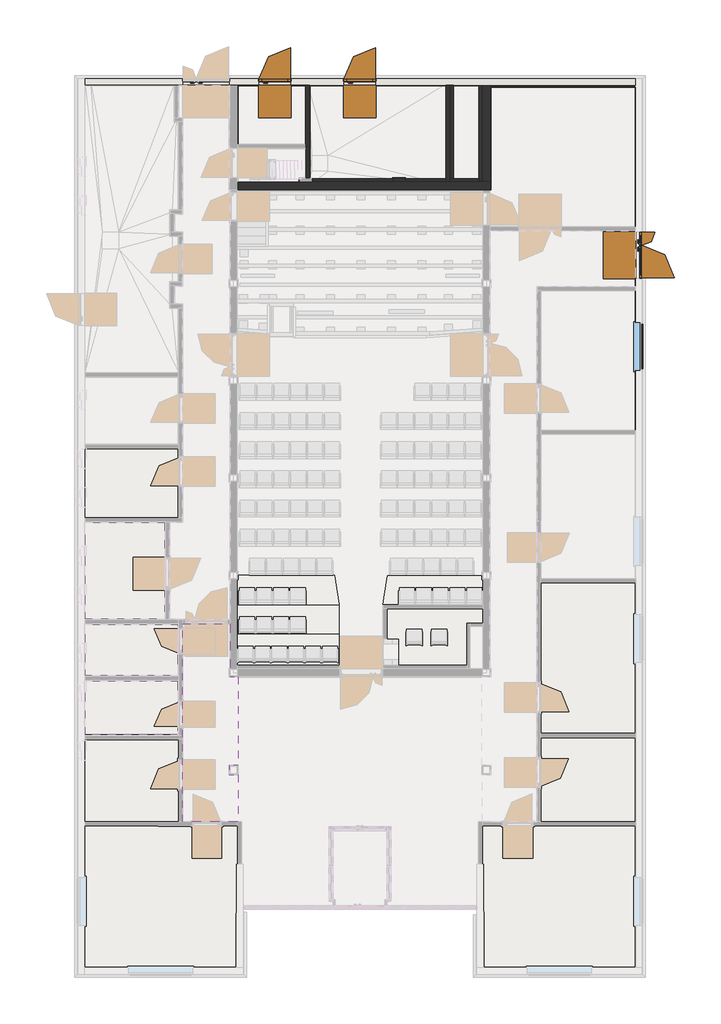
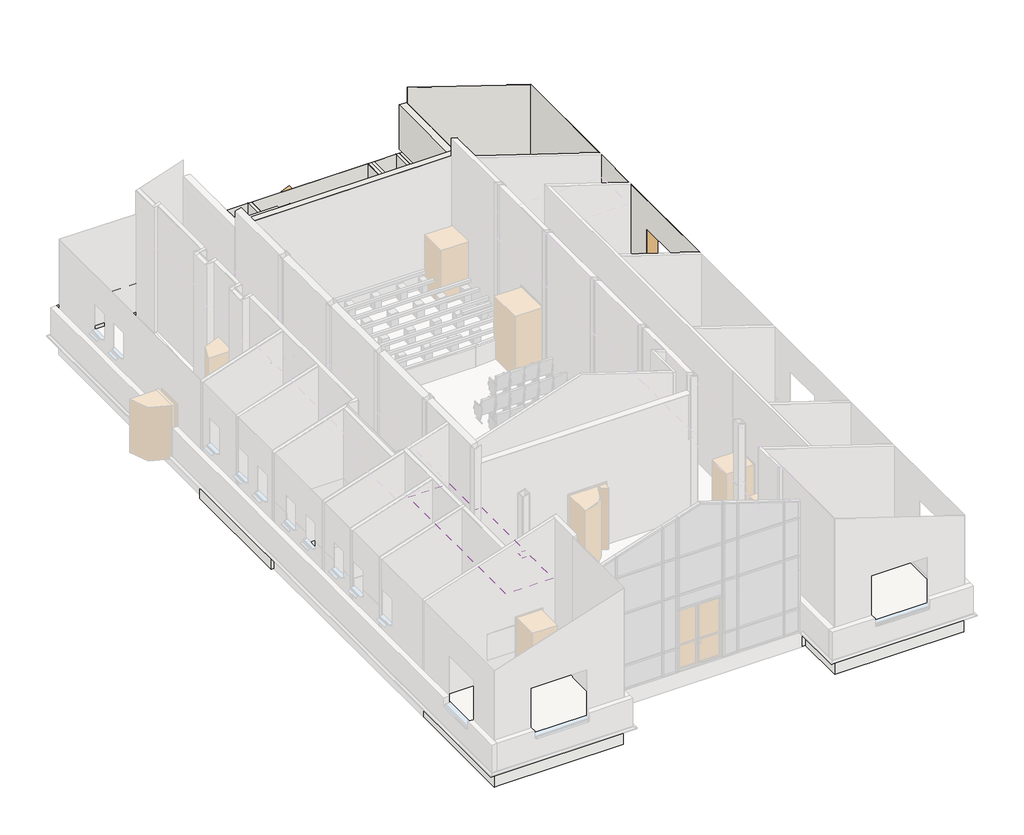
# One storey, part 9 of 12: 33 walls, 12 slabs, 3 doors, 2 windows, 1 covering.
"""IFC4 building model written with IfcOpenShell, lengths in millimetres."""

from ifc_helpers import new_model, si_unit, frame, origin, origin_with_axes, place, context, project, spatial, polyline, outline, extrude, faceted_brep, transform, mapped, element, save
from components import door_54bb3564, door_b13809c9, window_3b6728a6, window_c86a886d

model = new_model("IFC4")

# Units and contexts
model_context = context("Model", 3, world=origin())
ifc_project = project(units=[si_unit("LENGTHUNIT", "METRE", prefix="MILLI")], contexts=[model_context])

# Site, building, storey
site = spatial("IfcSite", under=ifc_project)
building = spatial("IfcBuilding", under=site)
storey = spatial("IfcBuildingStorey", under=building, Name="Этаж 01", Elevation=0.0)

# Covering
placement = place(None, origin())
element("IfcCovering", 1, ObjectType="ADSK_Подвесной_Плиты потолочные Армстронг 600х600 мм", at=placement, inside=storey, context=model_context, shape_type="Brep", body=[
    faceted_brep([(4631.5630762, 6141.0, 3032.0), (4631.5630762, 8874.9999997, 3032.0), (4395.0630762, 8874.9999997, 3032.0), (4395.0630762, 10505.0, 3032.0), (2925.2560094, 10505.0, 3032.0), (2925.2560094, 4399.9957095, 3032.0), (4631.5630762, 4399.9957095, 3032.0), (4631.5630762, 5859.0, 3032.0), (4367.5630762, 5859.0, 3032.0), (4367.5630762, 5860.0, 3032.0), (4367.5630762, 6140.0, 3032.0), (4367.5630762, 6141.0, 3032.0), (4631.5630762, 6141.0, 3000.0), (4367.5630762, 6141.0, 3000.0), (4367.5630762, 6140.0, 3000.0), (4367.5630762, 5860.0, 3000.0), (4367.5630762, 5859.0, 3000.0), (4631.5630762, 5859.0, 3000.0), (4631.5630762, 4399.9957095, 3000.0), (2925.2560094, 4399.9957095, 3000.0), (2925.2560094, 10505.0, 3000.0), (4395.0630762, 10505.0, 3000.0), (4395.0630762, 8874.9999997, 3000.0), (4631.5630762, 8874.9999997, 3000.0)], [[[0, 1, 2, 3, 4, 5, 6, 7, 8, 9, 10, 11]], [[12, 13, 14, 15, 16, 17, 18, 19, 20, 21, 22, 23]], [[1, 0, 12, 23]], [[2, 1, 23, 22]], [[3, 2, 22, 21]], [[4, 3, 21, 20]], [[5, 4, 20, 19]], [[6, 5, 19, 18]], [[7, 6, 18, 17]], [[8, 7, 17, 16]], [[11, 10, 9, 8, 16, 15, 14, 13]], [[0, 11, 13, 12]]]),
])

# Doors
door_shape = door_54bb3564(model_context)
element("IfcDoor", 2, ObjectType="Дверь_Стальная_Наружная_Двупольная_ГОСТ_31173-2016 : 1410 х 2070(h)_Л_Обычная_с Порогом", at=placement, inside=storey, context=model_context, shape_type="MappedRepresentation", body=[
    mapped(door_shape, transform((17000.0, 21870.0, -12.5), x_axis=(0.0, -1.0, 0.0), y_axis=(1.0, 0.0, 0.0), z_axis=(0.0, 0.0, 1.0))),
])
door_2_shape = door_b13809c9(model_context)
element("IfcDoor", 3, ObjectType="Дверь_Стальная_Наружная_Однопольная_ГОСТ_31173-2016 : 1010 х 2070(h)_Л_Обычная_с Порогом", at=placement, inside=storey, context=model_context, shape_type="MappedRepresentation", body=[
    mapped(door_2_shape, transform((5774.9972865, 27200.0, 0.0), x_axis=(1.0, 0.0, 0.0), y_axis=(0.0, 1.0, 0.0), z_axis=(0.0, 0.0, 1.0))),
])
element("IfcDoor", 4, ObjectType="Дверь_Стальная_Наружная_Однопольная_ГОСТ_31173-2016 : 1010 х 2070(h)_Л_Обычная_с Порогом", at=placement, inside=storey, context=model_context, shape_type="MappedRepresentation", body=[
    mapped(door_2_shape, transform((8394.9997514, 27200.0, 0.0), x_axis=(1.0, 0.0, 0.0), y_axis=(0.0, 1.0, 0.0), z_axis=(0.0, 0.0, 1.0))),
])

# Slabs
element("IfcSlab", 5, ObjectType="Тип 4", at=placement, inside=storey, context=model_context, shape_type="SweptSolid", body=[
    extrude(outline(polyline([(2405.0415712, 13650.0024506), (2405.0415712, 10630.0), (-85.0, 10630.0), (-85.0, 13650.0024506), (2405.0415712, 13650.0024506)])), frame((0.0, 0.0, -15.0), z_axis=(0.0, 0.0, 1.0), x_axis=(1.0, 0.0, 0.0)), (0.0, 0.0, 1.0), 15.0),
    extrude(outline(polyline([(2805.3948034, 10510.0), (2805.3948034, 8890.0), (-85.0, 8890.0), (-85.0, 10510.0), (2805.3948034, 10510.0)])), frame((0.0, 0.0, -15.0), z_axis=(0.0, 0.0, 1.0), x_axis=(1.0, 0.0, 0.0)), (0.0, 0.0, 1.0), 15.0),
    extrude(outline(polyline([(2805.3948034, 8770.0), (2805.3948034, 7059.9969968), (-85.0, 7059.9969968), (-85.0, 8770.0), (2805.3948034, 8770.0)])), frame((0.0, 0.0, -15.0), z_axis=(0.0, 0.0, 1.0), x_axis=(1.0, 0.0, 0.0)), (0.0, 0.0, 1.0), 15.0),
    extrude(outline(polyline([(2800.2560094, 6939.9969968), (2800.2560094, 4399.9957095), (-85.0, 4399.9957095), (-85.0, 6939.9969968), (2800.2560094, 6939.9969968)])), frame((0.0, 0.0, -15.0), z_axis=(0.0, 0.0, 1.0), x_axis=(1.0, 0.0, 0.0)), (0.0, 0.0, 1.0), 15.0),
])
element("IfcSlab", 6, ObjectType="Тип 1", at=placement, inside=storey, context=model_context, shape_type="Brep", body=[
    faceted_brep([(12780.5, 4290.3457095, -3.0), (12780.5, 4415.3457095, -3.0), (13740.5, 4415.3457095, -3.0), (13740.5, 4290.3457095, -3.0), (16885.0, 4290.3457095, -3.0), (16885.0, -85.0, -3.0), (12215.0, -85.0, -3.0), (12200.0, -85.0, -3.0), (12200.0, 1635.3517467, -3.0), (12200.0, 3100.0, -3.0), (12175.0, 3100.0, -3.0), (12175.0, 4290.3457095, -3.0), (12780.5, 4415.3457095, 0.0), (12780.5, 4290.3457095, 0.0), (12175.0, 4290.3457095, 0.0), (12175.0, 3100.0, 0.0), (12200.0, 3100.0, 0.0), (12200.0, 1635.3517467, 0.0), (12200.0, -85.0, 0.0), (12215.0, -85.0, 0.0), (16885.0, -85.0, 0.0), (16885.0, 4290.3457095, 0.0), (13740.5, 4290.3457095, 0.0), (13740.5, 4415.3457095, 0.0)], [[[0, 1, 2, 3, 4, 5, 6, 7, 8, 9, 10, 11]], [[12, 13, 14, 15, 16, 17, 18, 19, 20, 21, 22, 23]], [[1, 0, 13, 12]], [[2, 1, 12, 23]], [[3, 2, 23, 22]], [[3, 22, 21, 4]], [[18, 7, 6, 5, 20, 19]], [[0, 11, 14, 13]], [[9, 8, 7, 18, 17, 16]], [[10, 9, 16, 15]], [[11, 10, 15, 14]], [[5, 4, 21, 20]]]),
])
element("IfcSlab", 7, ObjectType="Основа", at=placement, inside=storey, context=model_context, shape_type="Brep", body=[
    faceted_brep([(-85.0, 4337.4957095, -610.0), (45.0, 4337.4957095, -610.0), (4675.0, 4337.4957095, -610.0), (4687.5, 4337.4957095, -610.0), (4687.5, 1755.3517467, -610.0), (4687.5, 1635.3517467, -610.0), (4687.5, 1585.3517467, -610.0), (4585.0, 1585.3517467, -610.0), (4585.0, 45.0, -610.0), (4585.0, -85.0, -610.0), (45.0, -85.0, -610.0), (-85.0, -85.0, -610.0), (-85.0, 4337.4957095, -3.0), (-85.0, -85.0, -3.0), (4585.0, -85.0, -3.0), (4585.0, 1585.3517467, -3.0), (4687.5, 1585.3517467, -3.0), (4687.5, 1635.3517467, -3.0), (4687.5, 1885.3517467, -3.0), (4687.5, 4337.4957095, -3.0), (-85.0, 4337.4957095, -20.0), (4687.5, 4337.4957095, -20.0), (4687.5, 1585.3517467, -20.0), (4585.0, 1585.3517467, -20.0), (4585.0, -85.0, -20.0), (-85.0, -85.0, -100.0)], [[[0, 1, 2, 3, 4, 5, 6, 7, 8, 9, 10, 11]], [[12, 13, 14, 15, 16, 17, 18, 19]], [[3, 2, 1, 0, 20, 12, 19, 21]], [[6, 5, 4, 3, 21, 19, 18, 17, 16, 22]], [[7, 6, 22, 16, 15, 23]], [[9, 8, 7, 23, 15, 14, 24]], [[11, 10, 9, 24, 14, 13, 25]], [[0, 11, 25, 13, 12, 20]]]),
    faceted_brep([(16885.0, 7062.5, -610.0), (16755.0, 7062.5, -610.0), (13917.5, 7062.5, -610.0), (13917.5, 20838.0, -610.0), (16755.0, 20838.0, -610.0), (16885.0, 20838.0, -610.0), (16885.0, 7062.5, -3.0), (16885.0, 7125.0, -3.0), (16885.0, 11775.0, -3.0), (16885.0, 11900.0, -3.0), (16885.0, 16349.9313142, -3.0), (16885.0, 16474.9313142, -3.0), (16885.0, 20775.5, -3.0), (16885.0, 20838.0, -3.0), (13917.5, 20838.0, -3.0), (13917.5, 20775.5, -3.0), (13917.5, 7062.5, -3.0), (13980.0, 7062.5, -3.0), (16885.0, 7062.5, -20.0), (13917.5, 7062.5, -20.0), (13917.5, 20838.0, -20.0), (16885.0, 20838.0, -20.0)], [[[0, 1, 2, 3, 4, 5]], [[6, 7, 8, 9, 10, 11, 12, 13, 14, 15, 16, 17]], [[2, 1, 0, 18, 6, 17, 16, 19]], [[3, 2, 19, 16, 15, 14, 20]], [[5, 4, 3, 20, 14, 13, 21]], [[0, 5, 21, 13, 12, 11, 10, 9, 8, 7, 6, 18]]]),
    faceted_brep([(12215.0, 1755.3517467, -610.0), (12112.5, 1755.3517467, -610.0), (12112.5, 1885.3517467, -610.0), (12112.5, 4337.4957095, -610.0), (16755.0, 4337.4957095, -610.0), (16885.0, 4337.4957095, -610.0), (16885.0, -85.0, -610.0), (16755.0, -85.0, -610.0), (12215.0, -85.0, -610.0), (12215.0, 45.0, -610.0), (12215.0, 1635.3517467, -610.0), (12215.0, 1755.3517467, -3.0), (12215.0, 1635.3517467, -3.0), (12215.0, -85.0, -3.0), (16885.0, -85.0, -3.0), (16885.0, 4274.9957095, -3.0), (16885.0, 4337.4957095, -3.0), (12175.0, 4337.4957095, -3.0), (12112.5, 4337.4957095, -3.0), (12112.5, 1885.3517467, -3.0), (12112.5, 1755.3517467, -3.0), (12112.5, 4337.4957095, -20.0), (16885.0, 4337.4957095, -20.0), (16885.0, -85.0, -20.0), (12215.0, -85.0, -20.0), (12215.0, -85.0, -25.0), (12112.5, 1755.3517467, -20.0)], [[[0, 1, 2, 3, 4, 5, 6, 7, 8, 9, 10]], [[11, 12, 13, 14, 15, 16, 17, 18, 19, 20]], [[5, 4, 3, 21, 18, 17, 16, 22]], [[6, 5, 22, 16, 15, 14, 23]], [[8, 7, 6, 23, 14, 13, 24, 25]], [[0, 10, 9, 8, 25, 24, 13, 12, 11]], [[3, 2, 1, 26, 20, 19, 18, 21]], [[1, 0, 11, 20, 26]]]),
    faceted_brep([(2865.2572865, 13710.0024506, -610.0), (45.0, 13710.0024506, -610.0), (-85.0, 13710.0024506, -610.0), (-175.0, 13710.0024506, -610.0), (-175.0, 18180.0, -610.0), (45.0, 18180.0, -610.0), (2865.2572865, 18180.0, -610.0), (2865.2572865, 13710.0024506, -3.0), (2865.2572865, 13770.0024506, -3.0), (2865.2572865, 18180.0, -3.0), (2805.2572865, 18180.0, -3.0), (-85.0, 18180.0, -3.0), (-175.0, 18180.0, -3.0), (-175.0, 13710.0024506, -3.0), (-85.0, 13710.0024506, -3.0), (2865.2572865, 13710.0024506, -20.0), (-175.0, 13710.0024506, -100.0), (-175.0, 18180.0, -100.0), (2865.2572865, 18180.0, -25.0)], [[[0, 1, 2, 3, 4, 5, 6]], [[7, 8, 9, 10, 11, 12, 13, 14]], [[3, 2, 1, 0, 15, 7, 14, 13, 16]], [[4, 3, 16, 13, 12, 17]], [[6, 5, 4, 17, 12, 11, 10, 9, 18]], [[0, 6, 18, 9, 8, 7, 15]]]),
])
element("IfcSlab", 8, ObjectType="Доска пола ДП-35", at=placement, inside=storey, context=model_context, shape_type="SweptSolid", body=[
    extrude(outline(polyline([(12195.0, 11084.9999997), (12195.0, 10524.9970271), (11695.0, 10524.9970271), (11695.0, 9224.9970982), (9605.7160481, 9224.9970982), (9605.7160481, 10044.981998), (9105.0, 10044.981998), (9105.0, 11084.9999997), (12195.0, 11084.9999997)])), frame((0.0, 0.0, 505.0), z_axis=(0.0, 0.0, 1.0), x_axis=(1.0, 0.0, 0.0)), (0.0, 0.0, 1.0), 35.0),
])
element("IfcSlab", 9, ObjectType="Доска пола ДП-35", at=placement, inside=storey, context=model_context, shape_type="Brep", body=[
    faceted_brep([(12195.0, 11084.9999997, 145.0), (9140.0, 11084.9999997, 145.0), (9105.0, 11084.9999997, 145.0), (9105.0, 11089.5641537, 145.0), (9140.0, 11302.4019902, 145.0), (9252.2494511, 11984.9999997, 145.0), (12195.0, 11984.9999997, 145.0), (12195.0, 11084.9999997, 180.0), (12195.0, 11984.9999997, 180.0), (9252.2494511, 11984.9999997, 180.0), (9140.0, 11302.4019902, 180.0), (9105.0, 11089.5641537, 180.0), (9105.0, 11084.9999997, 180.0)], [[[0, 1, 2, 3, 4, 5, 6]], [[7, 8, 9, 10, 11, 12]], [[2, 1, 0, 7, 12]], [[4, 3, 11, 10]], [[5, 4, 10, 9]], [[6, 5, 9, 8]], [[0, 6, 8, 7]], [[3, 2, 12, 11]]]),
])
element("IfcSlab", 10, ObjectType="Доска пола ДП-35", at=placement, inside=storey, context=model_context, shape_type="SweptSolid", body=[
    extrude(outline(polyline([(7755.0, 10184.9999997), (7755.0, 9224.9999997), (4605.0, 9224.9999997), (4605.0, 10184.9999997), (7755.0, 10184.9999997)])), frame((0.0, 0.0, 505.0), z_axis=(0.0, 0.0, 1.0), x_axis=(1.0, 0.0, 0.0)), (0.0, 0.0, 1.0), 35.0),
])
element("IfcSlab", 11, ObjectType="Доска пола ДП-35", at=placement, inside=storey, context=model_context, shape_type="Brep", body=[
    faceted_brep([(7755.0, 10184.9999997, 325.0), (4605.0, 10184.9999997, 325.0), (4605.0, 11084.9999997, 325.0), (7720.0, 11084.9999997, 325.0), (7755.0, 11084.9999997, 325.0), (7755.0, 10184.9999997, 360.0), (7755.0, 11084.9999997, 360.0), (4605.0, 11084.9999997, 360.0), (4605.0, 10184.9999997, 360.0)], [[[0, 1, 2, 3, 4]], [[5, 6, 7, 8]], [[1, 0, 5, 8]], [[2, 1, 8, 7]], [[4, 3, 2, 7, 6]], [[0, 4, 6, 5]]]),
])
element("IfcSlab", 12, ObjectType="Доска пола ДП-35", at=placement, inside=storey, context=model_context, shape_type="SweptSolid", body=[
    extrude(outline(polyline([(7755.0, 11084.9999997), (4605.0, 11084.9999997), (4605.0, 11867.5), (4625.0, 11867.5), (4625.0, 11999.9999997), (7607.4551117, 11999.9999997), (7755.0, 11102.7675766), (7755.0, 11084.9999997)])), frame((0.0, 0.0, 145.0), z_axis=(0.0, 0.0, 1.0), x_axis=(1.0, 0.0, 0.0)), (0.0, 0.0, 1.0), 35.0),
])
element("IfcSlab", 13, ObjectType="Тип 1", at=placement, inside=storey, context=model_context, shape_type="SweptSolid", body=[
    extrude(outline(polyline([(4125.258522, 4287.4957095), (4625.0, 4287.4957095), (4625.0, 3100.5), (4600.0, 3100.5), (4600.0, -100.0), (-100.0, -100.0), (-100.0, 4290.3457095), (3225.258522, 4290.3457095), (3225.258522, 4379.9982221), (4125.258522, 4379.9982221), (4125.258522, 4287.4957095)])), frame((0.0, 0.0, -3.0), z_axis=(0.0, 0.0, 1.0), x_axis=(1.0, 0.0, 0.0)), (0.0, 0.0, 1.0), 3.0),
])
element("IfcSlab", 14, ObjectType="Тип 1", at=placement, inside=storey, context=model_context, shape_type="SweptSolid", body=[
    extrude(outline(polyline([(-100.0, 15909.9976367), (2805.2572865, 15909.9976367), (2805.2572865, 15670.7835232), (2925.2572865, 15670.7835232), (2925.2572865, 14760.7835232), (2805.2572865, 14760.7835232), (2805.2572865, 13770.0024506), (-100.0, 13770.0024506), (-100.0, 15909.9976367)])), frame((0.0, 0.0, -3.0), z_axis=(0.0, 0.0, 1.0), x_axis=(1.0, 0.0, 0.0)), (0.0, 0.0, 1.0), 3.0),
])
element("IfcSlab", 15, ObjectType="Тип 1", at=placement, inside=storey, context=model_context, shape_type="SweptSolid", body=[
    extrude(outline(polyline([(16900.0630762, 11775.0), (16900.0630762, 7125.0), (13980.0, 7125.0), (13980.0, 7750.0), (13855.0, 7750.0), (13855.0, 8710.0), (13980.0, 8710.0), (13980.0, 11775.0), (16900.0630762, 11775.0)])), frame((0.0, 0.0, -3.0), z_axis=(0.0, 0.0, 1.0), x_axis=(1.0, 0.0, 0.0)), (0.0, 0.0, 1.0), 3.0),
])
element("IfcSlab", 16, ObjectType="Тип 3", at=placement, inside=storey, context=model_context, shape_type="SweptSolid", body=[
    extrude(outline(polyline([(16900.0630762, 7000.0), (16900.0630762, 4399.9957095), (13980.0, 4399.9957095), (13980.0, 7000.0), (16900.0630762, 7000.0)])), frame((0.0, 0.0, -20.0), z_axis=(0.0, 0.0, 1.0), x_axis=(1.0, 0.0, 0.0)), (0.0, 0.0, 1.0), 20.0),
])

# Walls
element("IfcWall", 17, ObjectType="ADSK_Внутренняя_Кирпич_250", at=placement, inside=storey, context=model_context, shape_type="Brep", body=[
    faceted_brep([(4625.0, 23875.0, 4695.0), (4625.0, 23875.0, -5.0), (4625.0, 23875.0, -612.0), (4625.0, 23875.0, -1050.0), (12425.0, 23875.0, -1050.0), (12425.0, 23875.0, -627.0), (12425.0, 23875.0, -20.0), (12425.0, 23875.0, 4695.0), (4625.0, 24125.0, -1050.0), (4625.0, 24125.0, -540.0), (4625.0, 24125.0, 0.0), (4625.0, 24125.0, 4695.0), (4635.0, 24125.0, 4695.0), (12175.0, 24125.0, 4695.0), (12425.0, 24125.0, 4695.0), (12425.0, 24125.0, -1050.0), (12175.0, 24125.0, -1050.0)], [[[0, 1, 2, 3, 4, 5, 6, 7]], [[8, 9, 10, 11, 12, 13, 14, 15, 16]], [[4, 3, 8, 16, 15]], [[0, 7, 14, 13, 12, 11]], [[7, 6, 5, 4, 15, 14]], [[0, 11, 10, 9, 8, 3, 2, 1]]]),
])
element("IfcWall", 18, ObjectType="ADSK_Внутренняя_Кирпич_250", at=placement, inside=storey, context=model_context, shape_type="Brep", body=[
    faceted_brep([(12425.0, 24125.0, -1050.0), (12425.0, 26955.0, -1050.0), (12425.0, 26955.0, -627.0), (12425.0, 26955.0, -25.0), (12425.0, 27085.0, -25.0), (12425.0, 27085.0, -20.0), (12425.0, 27085.0, 100.0), (12425.0, 27100.0, 100.0), (12425.0, 27100.0, 4695.0), (12425.0, 24125.0, 4695.0), (12175.0, 26955.0, -1050.0), (12175.0, 24125.0, -1050.0), (12175.0, 24125.0, -585.0), (12175.0, 24125.0, 0.0), (12175.0, 24125.0, 2840.0), (12175.0, 27100.0, 2840.0), (12175.0, 27100.0, 100.0), (12175.0, 27085.0, 100.0), (12175.0, 27085.0, 0.0), (12175.0, 27085.0, -25.0), (12175.0, 26955.0, -25.0), (12175.0, 26955.0, -585.0), (12175.0, 24125.0, 4695.0), (12175.0, 27100.0, 4695.0), (12175.0, 27100.0, 3000.0), (12175.0, 24125.0, 3000.0), (12300.0, 24125.0, 3000.0), (12300.0, 24125.0, 2840.0), (12300.0, 26955.0, -25.0), (12300.0, 27085.0, -25.0), (12300.0, 27100.0, 2840.0), (12300.0, 27100.0, 3000.0)], [[[0, 1, 2, 3, 4, 5, 6, 7, 8, 9]], [[10, 11, 12, 13, 14, 15, 16, 17, 18, 19, 20, 21]], [[22, 23, 24, 25]], [[1, 0, 11, 10]], [[9, 8, 23, 22]], [[0, 9, 22, 25, 26, 27, 14, 13, 12, 11]], [[4, 3, 28, 20, 19, 29]], [[1, 10, 21, 20, 28, 3, 2]], [[7, 6, 17, 16]], [[4, 29, 19, 18, 17, 6, 5]], [[27, 30, 15, 14]], [[31, 26, 25, 24]], [[30, 27, 26, 31]], [[23, 8, 7, 16, 15, 30, 31, 24]]]),
])
element("IfcWall", 19, ObjectType="ADSK_Внутренняя_Кирпич_120", at=placement, inside=storey, context=model_context, shape_type="Brep", body=[
    faceted_brep([(6844.9988121, 24245.0, -25.0), (6844.9988121, 26955.0, -25.0), (6844.9988121, 27085.0, -25.0), (6844.9988121, 27085.0, -1.6192566), (6844.9988121, 27085.0, 100.0), (6844.9988121, 27100.0, 100.0), (6844.9988121, 27100.0, 2840.0), (6844.9988121, 24245.0, 2840.0), (6844.9988121, 24245.0, -18.6592665), (6724.9988121, 27085.0, -25.0), (6724.9988121, 25284.648381, -25.0), (6724.9988121, 25164.648381, -25.0), (6724.9988121, 24245.0, -25.0), (6724.9988121, 24245.0, 0.0), (6724.9988121, 24245.0, 2840.0), (6724.9988121, 24255.0, 2840.0), (6724.9988121, 27100.0, 2840.0), (6724.9988121, 27100.0, 100.0), (6724.9988121, 27085.0, 100.0), (6724.9988121, 27085.0, 0.0), (6784.9988121, 24245.0, -25.0), (6784.9988121, 27085.0, -25.0)], [[[0, 1, 2, 3, 4, 5, 6, 7, 8]], [[9, 10, 11, 12, 13, 14, 15, 16, 17, 18, 19]], [[2, 1, 0, 20, 12, 11, 10, 9, 21]], [[7, 6, 16, 15, 14]], [[0, 8, 7, 14, 13, 12, 20]], [[5, 4, 18, 17]], [[2, 21, 9, 19, 18, 4, 3]], [[16, 6, 5, 17]]]),
])
element("IfcWall", 20, ObjectType="ADSK_Внутренняя_Кирпич_120", at=placement, inside=storey, context=model_context, shape_type="Brep", body=[
    faceted_brep([(11175.0, 24125.0, -25.0), (11175.0, 26955.0, -25.0), (11175.0, 27085.0, -25.0), (11175.0, 27085.0, 0.0), (11175.0, 27085.0, 100.0), (11175.0, 27100.0, 100.0), (11175.0, 27100.0, 2840.0), (11175.0, 24125.0, 2840.0), (11175.0, 24125.0, 0.0), (11055.0, 27085.0, -25.0), (11055.0, 26955.0, -25.0), (11055.0, 24125.0, -25.0), (11055.0, 24125.0, -0.6482984), (11055.0, 24125.0, 2840.0), (11055.0, 24225.0, 2840.0), (11055.0, 24226.0, 2840.0), (11055.0, 27100.0, 2840.0), (11055.0, 27100.0, 100.0), (11055.0, 27085.0, 100.0), (11055.0, 27085.0, -0.6482984), (11115.0, 24125.0, -25.0), (11115.0, 27085.0, -25.0)], [[[0, 1, 2, 3, 4, 5, 6, 7, 8]], [[9, 10, 11, 12, 13, 14, 15, 16, 17, 18, 19]], [[2, 1, 0, 20, 11, 10, 9, 21]], [[7, 6, 16, 15, 14, 13]], [[0, 8, 7, 13, 12, 11, 20]], [[5, 4, 18, 17]], [[2, 21, 9, 19, 18, 4, 3]], [[16, 6, 5, 17]]]),
])
element("IfcWall", 21, ObjectType="ADSK_Внутренняя_Кирпич_120", at=placement, inside=storey, context=model_context, shape_type="Brep", body=[
    faceted_brep([(9414.9369238, 24125.0, -25.0), (9794.9369238, 24125.0, -25.0), (9794.9369238, 24125.0, 2840.0), (9414.9369238, 24125.0, 2840.0), (9414.9369238, 24245.0, -25.0), (9414.9369238, 24245.0, 0.0), (9414.9369238, 24245.0, 2840.0), (9794.9369238, 24245.0, 2840.0), (9794.9369238, 24245.0, -25.0), (9794.9369238, 24226.0, 2840.0), (9414.9369238, 24226.0, 2840.0)], [[[0, 1, 2, 3]], [[4, 5, 6, 7, 8]], [[1, 0, 4, 8]], [[2, 1, 8, 7, 9]], [[3, 2, 9, 7, 6, 10]], [[0, 3, 10, 6, 5, 4]]]),
])
element("IfcWall", 22, ObjectType="ADSK_Наружная_Сэндвич_Утеплитель_200 RAL 8017", at=placement, inside=storey, context=model_context, shape_type="Brep", body=[
    faceted_brep([(-100.0, 27100.0, 1200.0), (-100.0, 27100.0, 100.0), (2675.2572865, 27100.0, 100.0), (2795.2572865, 27100.0, 100.0), (2929.9972865, 27100.0, 100.0), (2929.9972865, 27100.0, 1200.0), (-100.0, 27300.0, 100.0), (-100.0, 27300.0, 1200.0), (2929.9972865, 27300.0, 1200.0), (2929.9972865, 27300.0, 100.0), (2929.9972865, 27205.0, 100.0)], [[[0, 1, 2, 3, 4, 5]], [[6, 7, 8, 9]], [[1, 6, 9, 10, 4, 3, 2]], [[7, 0, 5, 8]], [[1, 0, 7, 6]], [[5, 4, 10, 9, 8]]]),
    faceted_brep([(7889.9997514, 27100.0, 100.0), (7889.9997514, 27100.0, 1200.0), (6279.9972865, 27100.0, 1200.0), (6279.9972865, 27100.0, 100.0), (6724.9988121, 27100.0, 100.0), (6844.9988121, 27100.0, 100.0), (7889.9997514, 27300.0, 1200.0), (7889.9997514, 27300.0, 100.0), (6279.9972865, 27300.0, 100.0), (6279.9972865, 27300.0, 1200.0), (7889.9997514, 27205.0, 100.0), (6279.9972865, 27205.0, 100.0)], [[[0, 1, 2, 3, 4, 5]], [[6, 7, 8, 9]], [[7, 10, 0, 5, 4, 3, 11, 8]], [[1, 6, 9, 2]], [[1, 0, 10, 7, 6]], [[3, 2, 9, 8, 11]]]),
    faceted_brep([(8899.9997514, 27100.0, 100.0), (11055.0, 27100.0, 100.0), (11175.0, 27100.0, 100.0), (11275.0, 27100.0, 100.0), (12075.0, 27100.0, 100.0), (12175.0, 27100.0, 100.0), (12425.0, 27100.0, 100.0), (16900.0, 27100.0, 100.0), (16900.0, 27100.0, 1200.0), (8899.9997514, 27100.0, 1200.0), (8899.9997514, 27300.0, 1200.0), (16900.0, 27300.0, 1200.0), (16900.0, 27300.0, 100.0), (8899.9997514, 27300.0, 100.0), (8899.9997514, 27205.0, 100.0)], [[[0, 1, 2, 3, 4, 5, 6, 7, 8, 9]], [[10, 11, 12, 13]], [[7, 6, 5, 4, 3, 2, 1, 0, 14, 13, 12]], [[9, 8, 11, 10]], [[0, 9, 10, 13, 14]], [[8, 7, 12, 11]]]),
    faceted_brep([(5269.9972865, 27100.0, 100.0), (5269.9972865, 27100.0, 1200.0), (4369.9972865, 27100.0, 1200.0), (4369.9972865, 27100.0, 100.0), (4375.0, 27100.0, 100.0), (4625.0, 27100.0, 100.0), (5269.9972865, 27300.0, 1200.0), (5269.9972865, 27300.0, 100.0), (4369.9972865, 27300.0, 100.0), (4369.9972865, 27300.0, 1200.0), (5269.9972865, 27205.0, 100.0), (4369.9972865, 27205.0, 100.0)], [[[0, 1, 2, 3, 4, 5]], [[6, 7, 8, 9]], [[7, 10, 0, 5, 4, 3, 11, 8]], [[1, 6, 9, 2]], [[1, 0, 10, 7, 6]], [[3, 2, 9, 8, 11]]]),
])
element("IfcWall", 23, ObjectType="ADSK_Внутренняя_Кирпич_120", at=placement, inside=storey, context=model_context, shape_type="Brep", body=[
    faceted_brep([(17005.0, 27205.0, -25.0), (45.0, 27205.0, -25.0), (-205.0, 27205.0, -25.0), (-205.0, 27205.0, 100.0), (2929.9972865, 27205.0, 100.0), (2929.9972865, 27205.0, 0.0), (4369.9972865, 27205.0, 0.0), (4369.9972865, 27205.0, 100.0), (5269.9972865, 27205.0, 100.0), (5269.9972865, 27205.0, 0.0), (6279.9972865, 27205.0, 0.0), (6279.9972865, 27205.0, 100.0), (7889.9997514, 27205.0, 100.0), (7889.9997514, 27205.0, 0.0), (8899.9997514, 27205.0, 0.0), (8899.9997514, 27205.0, 100.0), (17005.0, 27205.0, 100.0), (-205.0, 27085.0, 100.0), (-205.0, 27085.0, -25.0), (-85.0, 27085.0, -25.0), (-85.0, 27085.0, -20.0), (-74.5520624, 27085.0, -20.48853), (96.6451142, 27085.0, -20.48853), (106.4167694, 27085.0, -20.4885302), (2661.147292, 27085.0, -20.4885302), (2675.2572865, 27085.0, -20.3036368), (2698.4290804, 27085.0, -20.0), (2735.2572865, 27085.0, -20.0), (2735.2572865, 27085.0, -25.0), (4375.0, 27085.0, -25.0), (4625.0, 27085.0, -25.0), (6724.9988121, 27085.0, -25.0), (6784.9988121, 27085.0, -25.0), (6784.9988121, 27085.0, 0.0), (6790.2767139, 27085.0, -1.6184827), (6810.4212425, 27085.0, -1.6192566), (6844.9988121, 27085.0, -1.6192566), (10965.1378515, 27085.0, -1.6192566), (11055.0, 27085.0, -0.6482984), (11115.0, 27085.0, 0.0), (11115.0, 27085.0, -25.0), (11175.0, 27085.0, -25.0), (12175.0, 27085.0, -25.0), (12300.0, 27085.0, -25.0), (12425.0, 27085.0, -25.0), (16885.0, 27085.0, -25.0), (17005.0, 27085.0, -25.0), (17005.0, 27085.0, 100.0), (12425.0, 27085.0, 100.0), (12175.0, 27085.0, 100.0), (12075.0, 27085.0, 100.0), (11275.0, 27085.0, 100.0), (11175.0, 27085.0, 100.0), (11055.0, 27085.0, 100.0), (8899.9997514, 27085.0, 100.0), (8899.9997514, 27085.0, 0.0), (7889.9997514, 27085.0, 0.0), (7889.9997514, 27085.0, 100.0), (6844.9988121, 27085.0, 100.0), (6724.9988121, 27085.0, 100.0), (6279.9972865, 27085.0, 100.0), (6279.9972865, 27085.0, 0.0), (5269.9972865, 27085.0, 0.0), (5269.9972865, 27085.0, 100.0), (4625.0, 27085.0, 100.0), (4375.0, 27085.0, 100.0), (4369.9972865, 27085.0, 100.0), (4369.9972865, 27085.0, 0.0), (2929.9972865, 27085.0, 0.0), (2929.9972865, 27085.0, 100.0), (2795.2572865, 27085.0, 100.0), (2675.2572865, 27085.0, 100.0), (11115.0, 27175.0, -25.0), (6784.9988121, 27175.0, -25.0), (2735.2572865, 27175.0, -25.0), (45.0, 27175.0, -25.0), (-85.0, 27175.0, -25.0), (8899.9997514, 27100.0, 100.0), (2929.9972865, 27100.0, 100.0), (7889.9997514, 27100.0, 100.0), (6279.9972865, 27100.0, 100.0), (5269.9972865, 27100.0, 100.0), (4369.9972865, 27100.0, 100.0), (6784.9988121, 27175.0, 0.0), (11115.0, 27175.0, 0.0), (7889.9997514, 27175.0, 0.0), (8899.9997514, 27175.0, 0.0), (-85.0, 27175.0, -20.0), (89.6092508, 27175.0, -20.0), (2735.2572865, 27175.0, -20.0), (2695.2572865, 27175.0, -20.0), (7889.9997514, 27175.0, 0.0), (8899.9997514, 27175.0, 0.0)], [[[0, 1, 2, 3, 4, 5, 6, 7, 8, 9, 10, 11, 12, 13, 14, 15, 16]], [[17, 18, 19, 20, 21, 22, 23, 24, 25, 26, 27, 28, 29, 30, 31, 32, 33, 34, 35, 36, 37, 38, 39, 40, 41, 42, 43, 44, 45, 46, 47, 48, 49, 50, 51, 52, 53, 54, 55, 56, 57, 58, 59, 60, 61, 62, 63, 64, 65, 66, 67, 68, 69, 70, 71]], [[2, 1, 0, 46, 45, 44, 43, 42, 41, 40, 72, 73, 32, 31, 30, 29, 28, 74, 75, 76, 19, 18]], [[47, 16, 15, 77, 54, 53, 52, 51, 50, 49, 48]], [[3, 17, 71, 70, 69, 78, 4]], [[57, 79, 12, 11, 80, 60, 59, 58]], [[63, 81, 8, 7, 82, 66, 65, 64]], [[3, 2, 18, 17]], [[0, 16, 47, 46]], [[83, 33, 32, 73]], [[39, 84, 72, 40]], [[84, 37, 36, 35, 83, 85, 86]], [[33, 83, 34]], [[83, 35, 34]], [[37, 84, 39, 38]], [[87, 20, 19, 76]], [[20, 87, 21]], [[87, 88, 22, 21]], [[22, 88, 23]], [[89, 74, 28, 27]], [[24, 90, 26, 25]], [[88, 90, 24, 23]], [[90, 89, 27, 26]], [[72, 84, 86, 85, 83, 73]], [[88, 87, 76, 75, 74, 89, 90]], [[14, 13, 91, 56, 55, 92]], [[13, 12, 79, 57, 56, 91]], [[15, 14, 92, 55, 54, 77]], [[9, 62, 61, 10]], [[62, 9, 8, 81, 63]], [[10, 61, 60, 80, 11]], [[67, 6, 5, 68]], [[68, 5, 4, 78, 69]], [[6, 67, 66, 82, 7]]]),
])
element("IfcWall", 24, ObjectType="Облицовка КНАУФ С625 Применение внутри здания ПС75х50 ПН75х40 шаг 600 мм ГСП-А 12.5", at=placement, inside=storey, context=model_context, shape_type="SweptSolid", body=[
    extrude(outline(polyline([(27085.0, 0.0), (24225.0, 0.0), (24225.0, 2840.0), (27100.0, 2840.0), (27100.0, 100.0), (27085.0, 100.0), (27085.0, 0.0)])), frame((11175.0, 0.0, 0.0), z_axis=(1.0, 0.0, 0.0), x_axis=(0.0, 1.0, 0.0)), (0.0, 0.0, 1.0), 100.0),
])
element("IfcWall", 25, ObjectType="Облицовка КНАУФ С625 Применение внутри здания ПС75х50 ПН75х40 шаг 600 мм ГСП-А 12.5", at=placement, inside=storey, context=model_context, shape_type="Brep", body=[
    faceted_brep([(11175.0, 24125.0, 0.0), (12180.0, 24125.0, 0.0), (12180.0, 24125.0, 2840.0), (11175.0, 24125.0, 2840.0), (12180.0, 24225.0, 2840.0), (12180.0, 24225.0, 0.0), (12175.0, 24225.0, 0.0), (12175.0, 24225.0, 2840.0), (11175.0, 24225.0, 0.0), (11175.0, 24225.0, 2840.0), (11275.0, 24225.0, 2840.0), (12075.0, 24225.0, 2840.0), (12075.0, 24225.0, 0.0), (11275.0, 24225.0, 0.0), (12075.0, 24145.0, 0.0), (12175.0, 24145.0, 0.0), (12075.0, 24145.0, 2840.0), (12175.0, 24145.0, 2840.0)], [[[0, 1, 2, 3]], [[4, 5, 6, 7]], [[8, 9, 10, 11, 12, 13]], [[1, 0, 8, 13, 12, 14, 15, 6, 5]], [[2, 1, 5, 4]], [[0, 3, 9, 8]], [[16, 14, 12, 11]], [[17, 15, 14, 16]], [[15, 17, 7, 6]], [[3, 2, 4, 7, 17, 16, 11, 10, 9]]]),
])
element("IfcWall", 26, ObjectType="Облицовка КНАУФ С625 Применение внутри здания ПС75х50 ПН75х40 шаг 600 мм ГСП-А 12.5", at=placement, inside=storey, context=model_context, shape_type="Brep", body=[
    faceted_brep([(12175.0, 24145.0, 0.0), (12175.0, 24225.0, 0.0), (12175.0, 27085.0, 0.0), (12175.0, 27085.0, 100.0), (12175.0, 27100.0, 100.0), (12175.0, 27100.0, 2840.0), (12175.0, 24225.0, 2840.0), (12175.0, 24145.0, 2840.0), (12075.0, 24145.0, 0.0), (12075.0, 24145.0, 2840.0), (12075.0, 24225.0, 2840.0), (12075.0, 27100.0, 2840.0), (12075.0, 27100.0, 100.0), (12075.0, 27085.0, 100.0), (12075.0, 27085.0, 0.0), (12075.0, 24225.0, 0.0)], [[[0, 1, 2, 3, 4, 5, 6, 7]], [[8, 9, 10, 11, 12, 13, 14, 15]], [[2, 1, 0, 8, 15, 14]], [[0, 7, 9, 8]], [[12, 4, 3, 13]], [[3, 2, 14, 13]], [[4, 12, 11, 5]], [[7, 6, 5, 11, 10, 9]]]),
])
element("IfcWall", 27, ObjectType="Облицовка КНАУФ С625 Применение внутри здания ПС75х50 ПН75х40 шаг 600 мм ГСП-А 12.5", at=placement, inside=storey, context=model_context, shape_type="SweptSolid", body=[
    extrude(outline(polyline([(9414.9369238, 24125.0), (6914.9369238, 24125.0), (6914.9369238, 24225.0), (9414.9369238, 24225.0), (9414.9369238, 24125.0)])), origin_with_axes(), (0.0, 0.0, 1.0), 2840.0),
])
element("IfcWall", 28, ObjectType="Облицовка КНАУФ С625 Применение внутри здания ПС75х50 ПН75х40 шаг 600 мм ГСП-А 12.5", at=placement, inside=storey, context=model_context, shape_type="SweptSolid", body=[
    extrude(outline(polyline([(11055.0, 24125.0), (9794.9869238, 24125.0), (9794.9869238, 24225.0), (11055.0, 24225.0), (11055.0, 24125.0)])), origin_with_axes(), (0.0, 0.0, 1.0), 2840.0),
])
element("IfcWall", 29, ObjectType="Отделка - Заводское покрытие сэндвич-панелей", at=placement, inside=storey, context=model_context, shape_type="Brep", body=[
    faceted_brep([(4625.0, 27100.0, 2840.0), (6724.9988121, 27100.0, 2840.0), (6724.9988121, 27100.0, 100.0), (6279.9972865, 27100.0, 100.0), (6279.9972865, 27100.0, 1200.0), (6279.9972865, 27100.0, 2070.0), (5269.9972865, 27100.0, 2070.0), (5269.9972865, 27100.0, 1200.0), (5269.9972865, 27100.0, 100.0), (4625.0, 27100.0, 100.0), (6724.9988121, 27099.0, 2840.0), (6714.9988121, 27099.0, 2840.0), (4635.0, 27099.0, 2840.0), (4625.0, 27099.0, 2840.0), (4625.0, 27099.0, 100.0), (5269.9972865, 27099.0, 100.0), (5269.9972865, 27099.0, 2070.0), (6279.9972865, 27099.0, 2070.0), (6279.9972865, 27099.0, 100.0), (6724.9988121, 27099.0, 100.0)], [[[0, 1, 2, 3, 4, 5, 6, 7, 8, 9]], [[10, 11, 12, 13, 14, 15, 16, 17, 18, 19]], [[14, 9, 8, 15]], [[2, 19, 18, 3]], [[1, 0, 13, 12, 11, 10]], [[0, 9, 14, 13]], [[5, 17, 16, 6]], [[6, 16, 15, 8, 7]], [[17, 5, 4, 3, 18]], [[2, 1, 10, 19]]]),
])
element("IfcWall", 30, ObjectType="Отделка - Акриловая покраска_1 мм_Улучш. штук. по кирп._9 мм", at=placement, inside=storey, context=model_context, shape_type="Brep", body=[
    faceted_brep([(4625.0, 27099.0, 0.0), (4625.0, 25284.648381, 0.0), (4625.0, 25284.648381, 2840.0), (4625.0, 27099.0, 2840.0), (4625.0, 27099.0, 100.0), (4635.0, 27099.0, 0.0), (4635.0, 27099.0, 2840.0), (4635.0, 25294.648381, 2840.0), (4635.0, 25284.648381, 2840.0), (4635.0, 25284.648381, 0.0), (4635.0, 25294.648381, 0.0)], [[[0, 1, 2, 3, 4]], [[5, 6, 7, 8, 9, 10]], [[1, 0, 5, 10, 9]], [[3, 2, 8, 7, 6]], [[2, 1, 9, 8]], [[0, 4, 3, 6, 5]]]),
])
element("IfcWall", 31, ObjectType="Отделка - Акриловая покраска_1 мм_Улучш. штук. по кирп._9 мм", at=placement, inside=storey, context=model_context, shape_type="Brep", body=[
    faceted_brep([(6724.9988121, 25294.648381, 0.0), (6724.9988121, 27099.0, 0.0), (6724.9988121, 27099.0, 100.0), (6724.9988121, 27099.0, 2840.0), (6724.9988121, 25294.648381, 2840.0), (6714.9988121, 25294.648381, 0.0), (6714.9988121, 25294.648381, 2840.0), (6714.9988121, 27099.0, 2840.0), (6714.9988121, 27099.0, 0.0)], [[[0, 1, 2, 3, 4]], [[5, 6, 7, 8]], [[1, 0, 5, 8]], [[4, 3, 7, 6]], [[0, 4, 6, 5]], [[3, 2, 1, 8, 7]]]),
])
element("IfcWall", 32, ObjectType="Отделка - Акриловая покраска по Кнауф-суперлистам_1 мм", at=placement, inside=storey, context=model_context, shape_type="Brep", body=[
    faceted_brep([(9794.9869238, 24225.0, 0.0), (11055.0, 24225.0, 0.0), (11055.0, 24225.0, 2840.0), (9794.9869238, 24225.0, 2840.0), (9794.9869238, 24226.0, 0.0), (9794.9869238, 24226.0, 2840.0), (9804.9869238, 24226.0, 2840.0), (11045.0, 24226.0, 2840.0), (11055.0, 24226.0, 2840.0), (11055.0, 24226.0, 0.0), (11045.0, 24226.0, 0.0), (9804.9869238, 24226.0, 0.0)], [[[0, 1, 2, 3]], [[4, 5, 6, 7, 8, 9, 10, 11]], [[1, 0, 4, 11, 10, 9]], [[3, 2, 8, 7, 6, 5]], [[2, 1, 9, 8]], [[0, 3, 5, 4]]]),
])
element("IfcWall", 33, ObjectType="Отделка - Акриловая покраска по Кнауф-суперлистам_1 мм", at=placement, inside=storey, context=model_context, shape_type="Brep", body=[
    faceted_brep([(6914.9369238, 24225.0, 0.0), (9414.9369238, 24225.0, 0.0), (9414.9369238, 24225.0, 2840.0), (6914.9369238, 24225.0, 2840.0), (6914.9369238, 24226.0, 0.0), (6914.9369238, 24226.0, 2840.0), (6924.9369238, 24226.0, 2840.0), (9404.9369238, 24226.0, 2840.0), (9414.9369238, 24226.0, 2840.0), (9414.9369238, 24226.0, 0.0), (9404.9369238, 24226.0, 0.0), (6924.9369238, 24226.0, 0.0)], [[[0, 1, 2, 3]], [[4, 5, 6, 7, 8, 9, 10, 11]], [[1, 0, 4, 11, 10, 9]], [[3, 2, 8, 7, 6, 5]], [[2, 1, 9, 8]], [[0, 3, 5, 4]]]),
])
element("IfcWall", 34, ObjectType="Отделка - Заводское покрытие сэндвич-панелей", at=placement, inside=storey, context=model_context, shape_type="Brep", body=[
    faceted_brep([(6844.9988121, 27100.0, 2840.0), (11055.0, 27100.0, 2840.0), (11055.0, 27100.0, 100.0), (8899.9997514, 27100.0, 100.0), (8899.9997514, 27100.0, 1200.0), (8899.9997514, 27100.0, 2070.0), (7889.9997514, 27100.0, 2070.0), (7889.9997514, 27100.0, 1200.0), (7889.9997514, 27100.0, 100.0), (6844.9988121, 27100.0, 100.0), (11055.0, 27099.0, 2840.0), (11045.0, 27099.0, 2840.0), (6854.9988121, 27099.0, 2840.0), (6844.9988121, 27099.0, 2840.0), (6844.9988121, 27099.0, 100.0), (7889.9997514, 27099.0, 100.0), (7889.9997514, 27099.0, 2070.0), (8899.9997514, 27099.0, 2070.0), (8899.9997514, 27099.0, 100.0), (11055.0, 27099.0, 100.0)], [[[0, 1, 2, 3, 4, 5, 6, 7, 8, 9]], [[10, 11, 12, 13, 14, 15, 16, 17, 18, 19]], [[2, 19, 18, 3]], [[14, 9, 8, 15]], [[1, 0, 13, 12, 11, 10]], [[2, 1, 10, 19]], [[0, 9, 14, 13]], [[5, 17, 16, 6]], [[6, 16, 15, 8, 7]], [[17, 5, 4, 3, 18]]]),
])
element("IfcWall", 35, ObjectType="Отделка - Акриловая покраска_1 мм_Улучш. штук. по кирп._9 мм", at=placement, inside=storey, context=model_context, shape_type="Brep", body=[
    faceted_brep([(6844.9988121, 27099.0, 0.0), (6844.9988121, 24245.0, 0.0), (6844.9988121, 24245.0, 2840.0), (6844.9988121, 27099.0, 2840.0), (6844.9988121, 27099.0, 100.0), (6854.9988121, 27099.0, 0.0), (6854.9988121, 27099.0, 2840.0), (6854.9988121, 24255.0, 2840.0), (6854.9988121, 24245.0, 2840.0), (6854.9988121, 24245.0, 0.0), (6854.9988121, 24255.0, 0.0)], [[[0, 1, 2, 3, 4]], [[5, 6, 7, 8, 9, 10]], [[1, 0, 5, 10, 9]], [[3, 2, 8, 7, 6]], [[2, 1, 9, 8]], [[0, 4, 3, 6, 5]]]),
])
element("IfcWall", 36, ObjectType="Отделка - Акриловая покраска_1 мм_Улучш. штук. по кирп._9 мм", at=placement, inside=storey, context=model_context, shape_type="SweptSolid", body=[
    extrude(outline(polyline([(9794.9869238, 24245.0), (9414.9369238, 24245.0), (9414.9369238, 24255.0), (9794.9869238, 24255.0), (9794.9869238, 24245.0)])), origin_with_axes(), (0.0, 0.0, 1.0), 2840.0),
])
element("IfcWall", 37, ObjectType="Отделка - Акриловая покраска_1 мм_Улучш. штук. по кирп._9 мм", at=placement, inside=storey, context=model_context, shape_type="Brep", body=[
    faceted_brep([(9794.9869238, 24255.0, 0.0), (9794.9869238, 24245.0, 0.0), (9794.9869238, 24226.0, 0.0), (9794.9869238, 24226.0, 2840.0), (9794.9869238, 24245.0, 2840.0), (9794.9869238, 24255.0, 2840.0), (9804.9869238, 24255.0, 0.0), (9804.9869238, 24255.0, 2840.0), (9804.9869238, 24226.0, 2840.0), (9804.9869238, 24226.0, 0.0)], [[[0, 1, 2, 3, 4, 5]], [[6, 7, 8, 9]], [[2, 1, 0, 6, 9]], [[5, 4, 3, 8, 7]], [[0, 5, 7, 6]], [[3, 2, 9, 8]]]),
])
element("IfcWall", 38, ObjectType="Отделка - Акриловая покраска_1 мм_Улучш. штук. по кирп._9 мм", at=placement, inside=storey, context=model_context, shape_type="Brep", body=[
    faceted_brep([(9414.9369238, 24226.0, 0.0), (9414.9369238, 24245.0, 0.0), (9414.9369238, 24255.0, 0.0), (9414.9369238, 24255.0, 2840.0), (9414.9369238, 24245.0, 2840.0), (9414.9369238, 24226.0, 2840.0), (9404.9369238, 24226.0, 0.0), (9404.9369238, 24226.0, 2840.0), (9404.9369238, 24255.0, 2840.0), (9404.9369238, 24255.0, 0.0)], [[[0, 1, 2, 3, 4, 5]], [[6, 7, 8, 9]], [[2, 1, 0, 6, 9]], [[5, 4, 3, 8, 7]], [[3, 2, 9, 8]], [[0, 5, 7, 6]]]),
])
element("IfcWall", 39, ObjectType="Отделка - Акриловая покраска_1 мм_Улучш. штук. по кирп._9 мм", at=placement, inside=storey, context=model_context, shape_type="Brep", body=[
    faceted_brep([(11055.0, 24226.0, 0.0), (11055.0, 27099.0, 0.0), (11055.0, 27099.0, 100.0), (11055.0, 27099.0, 2840.0), (11055.0, 24226.0, 2840.0), (11045.0, 24226.0, 0.0), (11045.0, 24226.0, 2840.0), (11045.0, 27099.0, 2840.0), (11045.0, 27099.0, 0.0)], [[[0, 1, 2, 3, 4]], [[5, 6, 7, 8]], [[1, 0, 5, 8]], [[4, 3, 7, 6]], [[0, 4, 6, 5]], [[3, 2, 1, 8, 7]]]),
])
element("IfcWall", 40, ObjectType="Отделка - Акриловая покраска по Кнауф-суперлистам_1 мм", at=placement, inside=storey, context=model_context, shape_type="Brep", body=[
    faceted_brep([(11275.0, 27100.0, 0.0), (11275.0, 24225.0, 0.0), (11275.0, 24225.0, 2840.0), (11275.0, 27100.0, 2840.0), (11276.0, 27100.0, 0.0), (11276.0, 27100.0, 100.0), (11276.0, 27100.0, 2840.0), (11276.0, 27099.0, 2840.0), (11276.0, 24226.0, 2840.0), (11276.0, 24225.0, 2840.0), (11276.0, 24225.0, 0.0), (11276.0, 24226.0, 0.0)], [[[0, 1, 2, 3]], [[4, 5, 6, 7, 8, 9, 10, 11]], [[1, 0, 4, 11, 10]], [[3, 2, 9, 8, 7, 6]], [[0, 3, 6, 5, 4]], [[2, 1, 10, 9]]]),
])
element("IfcWall", 41, ObjectType="Отделка - Акриловая покраска по Кнауф-суперлистам_1 мм", at=placement, inside=storey, context=model_context, shape_type="Brep", body=[
    faceted_brep([(11276.0, 24225.0, 0.0), (12075.0, 24225.0, 0.0), (12075.0, 24225.0, 2840.0), (11276.0, 24225.0, 2840.0), (11276.0, 24226.0, 0.0), (11276.0, 24226.0, 2840.0), (12074.0, 24226.0, 2840.0), (12075.0, 24226.0, 2840.0), (12075.0, 24226.0, 0.0), (12074.0, 24226.0, 0.0)], [[[0, 1, 2, 3]], [[4, 5, 6, 7, 8, 9]], [[1, 0, 4, 9, 8]], [[3, 2, 7, 6, 5]], [[2, 1, 8, 7]], [[0, 3, 5, 4]]]),
])
element("IfcWall", 42, ObjectType="Отделка - Акриловая покраска по Кнауф-суперлистам_1 мм", at=placement, inside=storey, context=model_context, shape_type="Brep", body=[
    faceted_brep([(12075.0, 24226.0, 0.0), (12075.0, 27100.0, 0.0), (12075.0, 27100.0, 2840.0), (12075.0, 24226.0, 2840.0), (12074.0, 24226.0, 0.0), (12074.0, 24226.0, 2840.0), (12074.0, 27099.0, 2840.0), (12074.0, 27100.0, 2840.0), (12074.0, 27100.0, 100.0), (12074.0, 27100.0, 0.0)], [[[0, 1, 2, 3]], [[4, 5, 6, 7, 8, 9]], [[1, 0, 4, 9]], [[3, 2, 7, 6, 5]], [[2, 1, 9, 8, 7]], [[0, 3, 5, 4]]]),
])
element("IfcWall", 43, ObjectType="Отделка - Заводское покрытие сэндвич-панелей", at=placement, inside=storey, context=model_context, shape_type="SweptSolid", body=[
    extrude(outline(polyline([(11276.0, 27100.0), (12074.0, 27100.0), (12074.0, 27099.0), (11276.0, 27099.0), (11276.0, 27100.0)])), frame((0.0, 0.0, 100.0), z_axis=(0.0, 0.0, 1.0), x_axis=(1.0, 0.0, 0.0)), (0.0, 0.0, 1.0), 2740.0),
])
element("IfcWall", 44, ObjectType="Отделка - Акриловая покраска_1 мм_Улучш. штук. по кирп._9 мм", at=placement, inside=storey, context=model_context, shape_type="Brep", body=[
    faceted_brep([(12425.0, 27050.0, 0.0), (12425.0, 23875.0, 0.0), (12425.0, 23875.0, 4695.0), (12425.0, 27050.0, 4695.0), (12435.0, 27050.0, 0.0), (12435.0, 27050.0, 100.0), (12435.0, 27050.0, 4695.0), (12435.0, 23875.0, 4695.0), (12435.0, 23875.0, 2840.0), (12435.0, 23875.0, 0.0)], [[[0, 1, 2, 3]], [[4, 5, 6, 7, 8, 9]], [[1, 0, 4, 9]], [[3, 2, 7, 6]], [[2, 1, 9, 8, 7]], [[0, 3, 6, 5, 4]]]),
])
element("IfcWall", 45, ObjectType="Отделка - Заводское покрытие сэндвич-панелей", at=placement, inside=storey, context=model_context, shape_type="Brep", body=[
    faceted_brep([(16900.0, 22746.0, 100.0), (16900.0, 27050.0, 100.0), (16900.0, 27050.0, 3850.0), (16900.0, 22746.0, 3850.0), (16900.0, 22746.0, 3848.1164919), (16899.0, 22746.0, 100.0), (16899.0, 22746.0, 3850.0), (16899.0, 27050.0, 3850.0), (16899.0, 27050.0, 3848.4414193), (16899.0, 27050.0, 100.0), (16899.0, 27049.0, 100.0)], [[[0, 1, 2, 3, 4]], [[5, 6, 7, 8, 9, 10]], [[1, 0, 5, 10, 9]], [[3, 2, 7, 6]], [[0, 4, 3, 6, 5]], [[2, 1, 9, 8, 7]]]),
])
element("IfcWall", 46, ObjectType="Отделка - Заводское покрытие сэндвич-панелей", at=placement, inside=storey, context=model_context, shape_type="Brep", body=[
    faceted_brep([(16899.0, 27050.0, 100.0), (12435.0, 27050.0, 100.0), (12435.0, 27050.0, 4695.0), (12435.0, 27050.0, 5298.9176523), (16899.0, 27050.0, 3848.4414193), (16899.0, 27049.0, 100.0), (16899.0, 27049.0, 3848.4414193), (12435.0, 27049.0, 5298.9176523), (12435.0, 27049.0, 100.0)], [[[0, 1, 2, 3, 4]], [[5, 6, 7, 8]], [[1, 0, 5, 8]], [[3, 2, 1, 8, 7]], [[0, 4, 6, 5]], [[4, 3, 7, 6]]]),
])
element("IfcWall", 47, ObjectType="Отделка - Заводское покрытие сэндвич-панелей", at=placement, inside=storey, context=model_context, shape_type="Brep", body=[
    faceted_brep([(16900.0, 16475.9313142, 100.0), (16900.0, 20775.5, 100.0), (16900.0, 20775.5, 3848.1164919), (16900.0, 20775.5, 3850.0), (16900.0, 16475.9313142, 3850.0), (16900.0, 16475.9313142, 3848.1164919), (16900.0, 18299.996604, 2700.0), (16900.0, 19799.996604, 2700.0), (16900.0, 19799.996604, 1200.0), (16900.0, 19799.996604, 900.0), (16900.0, 18299.996604, 900.0), (16900.0, 18299.996604, 1200.0), (16899.0, 20775.5, 100.0), (16899.0, 16475.9313142, 100.0), (16899.0, 16475.9313142, 3850.0), (16899.0, 20775.5, 3850.0), (16899.0, 19799.996604, 2700.0), (16899.0, 18299.996604, 2700.0), (16899.0, 18299.996604, 900.0), (16899.0, 19799.996604, 900.0)], [[[0, 1, 2, 3, 4, 5], [6, 7, 8, 9, 10, 11]], [[12, 13, 14, 15], [16, 17, 18, 19]], [[1, 0, 13, 12]], [[4, 3, 15, 14]], [[3, 2, 1, 12, 15]], [[0, 5, 4, 14, 13]], [[6, 17, 16, 7]], [[7, 16, 19, 9, 8]], [[9, 19, 18, 10]], [[17, 6, 11, 10, 18]]]),
])
element("IfcWall", 48, ObjectType="Отделка - Акриловая покраска_1 мм_Улучш. штук. по кирп._9 мм", at=placement, inside=storey, context=model_context, shape_type="Brep", body=[
    faceted_brep([(6534.9369238, 24125.0, 0.0), (6534.9369238, 24245.0, 0.0), (6534.9369238, 24245.0, 2840.0), (6534.9369238, 24125.0, 2840.0), (6524.9369238, 24125.0, 0.0), (6524.9369238, 24125.0, 2840.0), (6524.9369238, 24135.0, 2840.0), (6524.9369238, 24245.0, 2840.0), (6524.9369238, 24245.0, 0.0), (6524.9369238, 24135.0, 0.0), (6529.9369238, 24125.0, 2840.0)], [[[0, 1, 2, 3]], [[4, 5, 6, 7, 8, 9]], [[1, 0, 4, 9, 8]], [[3, 2, 7, 6, 5, 10]], [[0, 3, 10, 5, 4]], [[2, 1, 8, 7]]]),
])
element("IfcWall", 49, ObjectType="Отделка - Заводское покрытие сэндвич-панелей", at=placement, inside=storey, context=model_context, shape_type="Brep", body=[
    faceted_brep([(16900.0, 22619.0, 3850.0), (16900.0, 20901.0, 3850.0), (16900.0, 20901.0, 100.0), (16900.0, 21150.0, 100.0), (16900.0, 21150.0, 1200.0), (16900.0, 21150.0, 2069.5), (16900.0, 22590.0, 2069.5), (16900.0, 22590.0, 1200.0), (16900.0, 22590.0, 100.0), (16900.0, 22619.0, 100.0), (16900.0, 22619.0, 3848.1164919), (16899.0, 20901.0, 3850.0), (16899.0, 22619.0, 3850.0), (16899.0, 22619.0, 100.0), (16899.0, 22590.0, 100.0), (16899.0, 22590.0, 2069.5), (16899.0, 21150.0, 2069.5), (16899.0, 21150.0, 100.0), (16899.0, 20901.0, 100.0)], [[[0, 1, 2, 3, 4, 5, 6, 7, 8, 9, 10]], [[11, 12, 13, 14, 15, 16, 17, 18]], [[2, 18, 17, 3]], [[13, 9, 8, 14]], [[1, 0, 12, 11]], [[2, 1, 11, 18]], [[15, 6, 5, 16]], [[6, 15, 14, 8, 7]], [[16, 5, 4, 3, 17]], [[0, 10, 9, 13, 12]]]),
])

# Windows
window_shape = window_3b6728a6(model_context)
element("IfcWindow", 50, ObjectType="В2В_Подоконник_ПВХ : ОК 2", at=placement, inside=storey, context=model_context, shape_type="MappedRepresentation", body=[
    mapped(window_shape, transform((17030.0, 19049.996604, 920.0), x_axis=(0.0, -1.0, 0.0), y_axis=(1.0, 0.0, 0.0), z_axis=(0.0, 0.0, 1.0))),
])
window_2_shape = window_c86a886d(model_context)
element("IfcWindow", 51, ObjectType="B2B_Отлив : Отлив_металлический", at=placement, inside=storey, context=model_context, shape_type="MappedRepresentation", body=[
    mapped(window_2_shape, transform((17100.0, 19049.996604, 900.0), x_axis=(0.0, -1.0, 0.0), y_axis=(1.0, 0.0, 0.0), z_axis=(0.0, 0.0, 1.0))),
])

save(model, "model.ifc")
